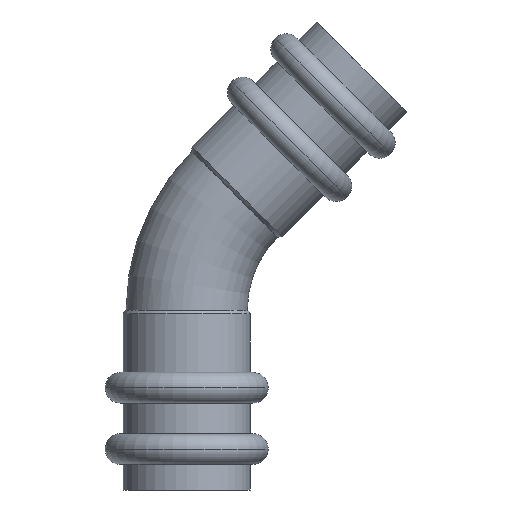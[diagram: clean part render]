
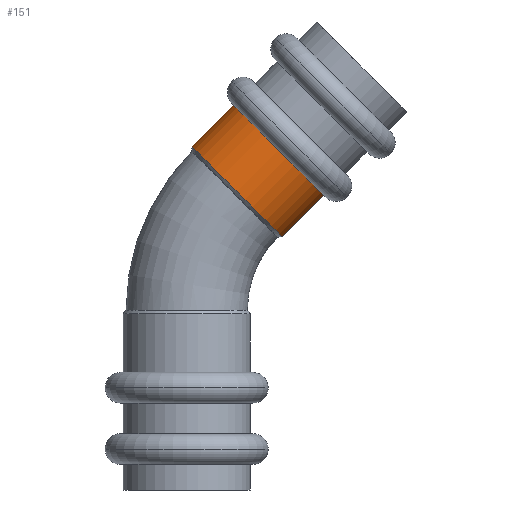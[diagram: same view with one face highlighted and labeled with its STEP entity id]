
A CAD part, front view. The second image highlights one B-rep face of the part: STEP entity #151.
In plain terms, the highlighted cylindrical face has radius 12.45 mm (diameter 24.9 mm), a partial arc.
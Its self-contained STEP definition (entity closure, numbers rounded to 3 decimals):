
#151=ADVANCED_FACE('',(#343),#344,.T.);
#343=FACE_OUTER_BOUND('',#591,.T.);
#344=CYLINDRICAL_SURFACE('',#592,12.45);
#591=EDGE_LOOP('',(#963,#964,#965,#966));
#592=AXIS2_PLACEMENT_3D('',#967,#968,#969);
#963=ORIENTED_EDGE('',*,*,#1460,.F.);
#964=ORIENTED_EDGE('',*,*,#1461,.T.);
#965=ORIENTED_EDGE('',*,*,#1462,.F.);
#966=ORIENTED_EDGE('',*,*,#1463,.F.);
#967=CARTESIAN_POINT('',(13.944,0.0,62.414));
#968=DIRECTION('',(0.707,0.0,0.707));
#969=DIRECTION('',(-0.707,0.0,0.707));
#1460=EDGE_CURVE('',#1751,#1752,#1753,.T.);
#1461=EDGE_CURVE('',#1751,#1754,#1755,.T.);
#1462=EDGE_CURVE('',#1756,#1754,#1757,.T.);
#1463=EDGE_CURVE('',#1752,#1756,#1758,.T.);
#1751=VERTEX_POINT('',#2244);
#1752=VERTEX_POINT('',#2245);
#1753=LINE('',#2246,#2247);
#1754=VERTEX_POINT('',#2248);
#1755=CIRCLE('',#2249,12.45);
#1756=VERTEX_POINT('',#2250);
#1757=LINE('',#2251,#2252);
#1758=CIRCLE('',#2253,12.45);
#2244=CARTESIAN_POINT('',(1.075,0.,67.152));
#2245=CARTESIAN_POINT('',(9.207,0.,75.283));
#2246=CARTESIAN_POINT('',(5.141,0.,71.218));
#2247=VECTOR('',#2772,1.0);
#2248=CARTESIAN_POINT('',(18.682,0.,49.545));
#2249=AXIS2_PLACEMENT_3D('',#2773,#2774,#2775);
#2250=CARTESIAN_POINT('',(26.813,0.,57.677));
#2251=CARTESIAN_POINT('',(22.748,0.,53.611));
#2252=VECTOR('',#2776,1.0);
#2253=AXIS2_PLACEMENT_3D('',#2777,#2778,#2779);
#2772=DIRECTION('',(0.707,0.0,0.707));
#2773=CARTESIAN_POINT('',(9.878,0.0,58.348));
#2774=DIRECTION('',(0.707,0.0,0.707));
#2775=DIRECTION('',(-0.707,0.0,0.707));
#2776=DIRECTION('',(-0.707,-0.0,-0.707));
#2777=CARTESIAN_POINT('',(18.01,0.0,66.48));
#2778=DIRECTION('',(0.707,0.0,0.707));
#2779=DIRECTION('',(-0.707,0.0,0.707));
